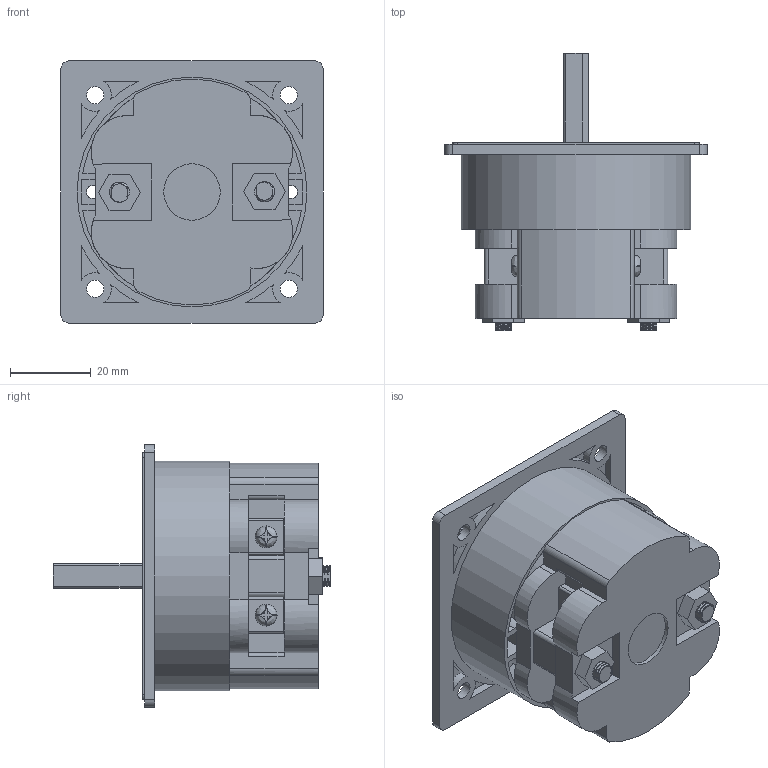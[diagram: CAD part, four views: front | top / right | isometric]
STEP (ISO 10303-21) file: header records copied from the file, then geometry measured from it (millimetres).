
FILE_DESCRIPTION(/* description */ (''),/* implementation_level */ '2;1');
FILE_NAME(/* name */ '4G16,25_standard_1_korpus.stp',/* time_stamp */ '2021-07-21T13:14:44+02:00',/* author */ (''),/* organization */ (''),/* preprocessor_version */ 'ST-DEVELOPER v18.1',/* originating_system */ 'SIEMENS PLM Software NX 1965',/* authorisation */ '');
FILE_SCHEMA (('AUTOMOTIVE_DESIGN { 1 0 10303 214 3 1 1 1 }'));
Products named in the file (1): 4G16,25_standard_1_korpus_stp
Bounding box: 65 x 68.7 x 65 mm (x, y, z)
Volume: 99222.2 mm3; surface area: 25202.6 mm2
Topology: 1 solids, 5 shells, 520 faces, 1457 edges, 961 vertices
Faces by surface type: plane 262, cylinder 175, bspline 74, cone 9
Full cylindrical faces by diameter (mm): 3.3 x3, 4 x4, 4.3 x4, 5 x2, 5.4 x4, 6.5 x2, 7.2 x4, 10 x1, 14 x1, 57 x1
Entity records: 52709 total; most frequent: CARTESIAN_POINT 40070, ORIENTED_EDGE 2800, DIRECTION 2289, EDGE_CURVE 1400, VERTEX_POINT 940, AXIS2_PLACEMENT_3D 803, LINE 683, VECTOR 683
